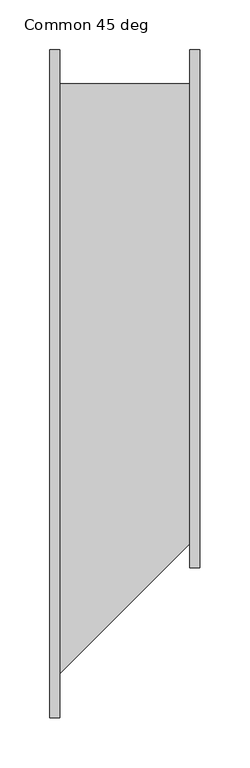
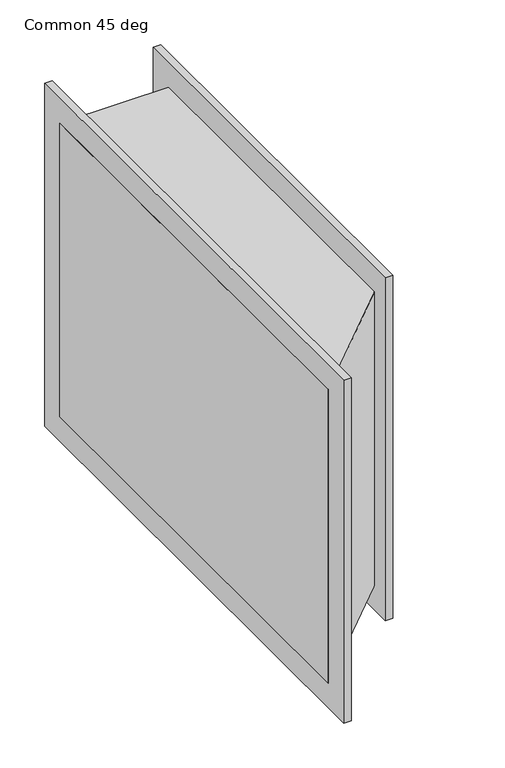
"""IFC4 building model written with IfcOpenShell, lengths in millimetres: duct fitting geometry, 041_角型置換 - フランジ - 角度 : Common 45 deg."""

from ifc_helpers import new_model, si_unit, frame, origin, place, context, project, spatial, polyline, outline, extrude, source, transform, mapped, element, save


def common_45_deg_a8b3d2f7(model_context):
    return source(origin(), model_context, "Body", "SweptSolid", [
        extrude(outline(polyline([(0.0, -300.0), (0.0, 300.0), (150.0, 300.0), (150.0, -150.0), (0.0, -300.0)])), frame((0.0, 0.0, -200.0), z_axis=(0.0, 0.0, 1.0), x_axis=(1.0, 0.0, 0.0)), (0.0, 0.0, 1.0), 400.0),
        extrude(outline(polyline([(150.0, 334.0), (150.0, -184.0), (140.0, -184.0), (140.0, 334.0), (150.0, 334.0)])), frame((0.0, 0.0, -234.0), z_axis=(0.0, 0.0, 1.0), x_axis=(1.0, 0.0, 0.0)), (0.0, 0.0, 1.0), 468.0),
        extrude(outline(polyline([(10.0, 334.0), (10.0, -334.0), (0.0, -334.0), (0.0, 334.0), (10.0, 334.0)])), frame((0.0, 0.0, -234.0), z_axis=(0.0, 0.0, 1.0), x_axis=(1.0, 0.0, 0.0)), (0.0, 0.0, 1.0), 468.0),
    ])


if __name__ == "__main__":
    model = new_model("IFC4")
    model_context = context("Model", 3, world=origin())
    ifc_project = project(units=[si_unit("LENGTHUNIT", "METRE", prefix="MILLI")], contexts=[model_context])
    site = spatial("IfcSite", under=ifc_project)
    building = spatial("IfcBuilding", under=site)
    placement = place(None, origin())
    common_45_deg_shape = common_45_deg_a8b3d2f7(model_context)
    element("IfcDuctFitting", 1, ObjectType="041_角型置換 - フランジ - 角度 : Common 45 deg", at=placement, inside=building, context=model_context, shape_type="MappedRepresentation", body=[
        mapped(common_45_deg_shape, transform((0.0, 0.0, 0.0), x_axis=(1.0, 0.0, 0.0), y_axis=(0.0, 1.0, 0.0), z_axis=(0.0, 0.0, 1.0))),
    ])
    save(model, "model.ifc")
